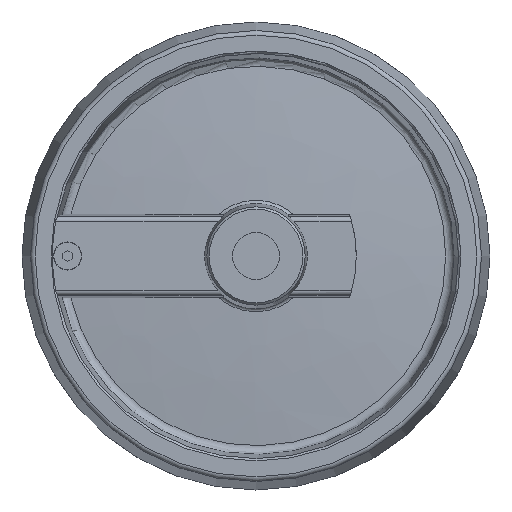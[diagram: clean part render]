
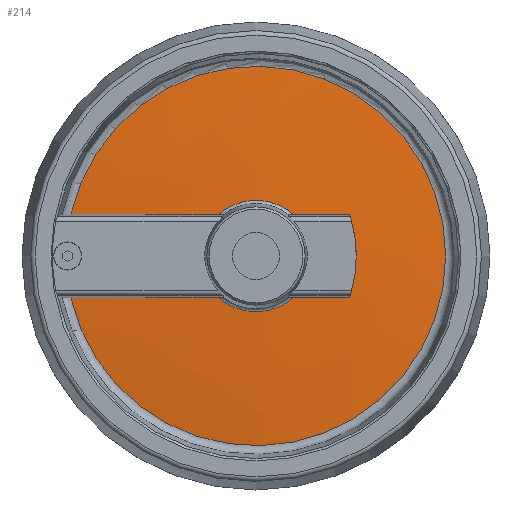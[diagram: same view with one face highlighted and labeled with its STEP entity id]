
A CAD part, left-side view. The second image highlights one B-rep face of the part: STEP entity #214.
In plain terms, the highlighted free-form (B-spline) face has degree [3, 3] with [4, 7] control points.
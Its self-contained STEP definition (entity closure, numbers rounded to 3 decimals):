
#214 = ADVANCED_FACE( '', ( #383 ), #384, .T. );
#383 = FACE_OUTER_BOUND( '', #701, .T. );
#384 = ( BOUNDED_SURFACE(  )B_SPLINE_SURFACE( 3, 3, ( ( #704, #705, #706, #707, #708, #709, #710 ), ( #711, #712, #713, #714, #715, #716, #717 ), ( #718, #719, #720, #721, #722, #723, #724 ), ( #725, #726, #727, #728, #729, #730, #731 ) ), .UNSPECIFIED., .F., .F., .F. )B_SPLINE_SURFACE_WITH_KNOTS( ( 4, 4 ), ( 4, 3, 4 ), ( 1.757, 7.667 ), ( -1.531, -1.502, -1.473 ), .UNSPECIFIED. )GEOMETRIC_REPRESENTATION_ITEM(  )RATIONAL_B_SPLINE_SURFACE( ( ( 1., 0.395, 0.395, 1., 0.395, 0.395, 1. ), ( 1., 0.395, 0.395, 1., 0.395, 0.395, 1. ), ( 1., 0.395, 0.395, 1., 0.395, 0.395, 1. ), ( 1., 0.395, 0.395, 1., 0.395, 0.395, 1. ) ) )REPRESENTATION_ITEM( '' )SURFACE(  ) );
#701 = EDGE_LOOP( '', ( #1295, #1296, #1297, #1298, #1299, #1300, #1301, #1302 ) );
#704 = CARTESIAN_POINT( '', ( 47.192, 79.651, 15.045 ) );
#705 = CARTESIAN_POINT( '', ( 47.192, 54.399, 148.733 ) );
#706 = CARTESIAN_POINT( '', ( 47.192, -81.06, 136.051 ) );
#707 = CARTESIAN_POINT( '', ( 47.192, -81.06, 0. ) );
#708 = CARTESIAN_POINT( '', ( 47.192, -81.06, -136.051 ) );
#709 = CARTESIAN_POINT( '', ( 47.192, 54.399, -148.733 ) );
#710 = CARTESIAN_POINT( '', ( 47.192, 79.651, -15.045 ) );
#711 = CARTESIAN_POINT( '', ( 45.331, 60.942, 11.511 ) );
#712 = CARTESIAN_POINT( '', ( 45.331, 41.621, 113.796 ) );
#713 = CARTESIAN_POINT( '', ( 45.331, -62.019, 104.093 ) );
#714 = CARTESIAN_POINT( '', ( 45.331, -62.019, 0. ) );
#715 = CARTESIAN_POINT( '', ( 45.331, -62.019, -104.093 ) );
#716 = CARTESIAN_POINT( '', ( 45.331, 41.621, -113.796 ) );
#717 = CARTESIAN_POINT( '', ( 45.331, 60.942, -11.511 ) );
#718 = CARTESIAN_POINT( '', ( 44.018, 42.187, 7.969 ) );
#719 = CARTESIAN_POINT( '', ( 44.018, 28.812, 78.776 ) );
#720 = CARTESIAN_POINT( '', ( 44.018, -42.933, 72.059 ) );
#721 = CARTESIAN_POINT( '', ( 44.018, -42.933, 0. ) );
#722 = CARTESIAN_POINT( '', ( 44.018, -42.933, -72.059 ) );
#723 = CARTESIAN_POINT( '', ( 44.018, 28.812, -78.776 ) );
#724 = CARTESIAN_POINT( '', ( 44.018, 42.187, -7.969 ) );
#725 = CARTESIAN_POINT( '', ( 43.253, 23.403, 4.421 ) );
#726 = CARTESIAN_POINT( '', ( 43.253, 15.984, 43.701 ) );
#727 = CARTESIAN_POINT( '', ( 43.253, -23.817, 39.975 ) );
#728 = CARTESIAN_POINT( '', ( 43.253, -23.817, 0. ) );
#729 = CARTESIAN_POINT( '', ( 43.253, -23.817, -39.975 ) );
#730 = CARTESIAN_POINT( '', ( 43.253, 15.984, -43.701 ) );
#731 = CARTESIAN_POINT( '', ( 43.253, 23.403, -4.421 ) );
#1295 = ORIENTED_EDGE( '', *, *, #1862, .F. );
#1296 = ORIENTED_EDGE( '', *, *, #1863, .T. );
#1297 = ORIENTED_EDGE( '', *, *, #1864, .F. );
#1298 = ORIENTED_EDGE( '', *, *, #1865, .F. );
#1299 = ORIENTED_EDGE( '', *, *, #1866, .F. );
#1300 = ORIENTED_EDGE( '', *, *, #1867, .T. );
#1301 = ORIENTED_EDGE( '', *, *, #1860, .F. );
#1302 = ORIENTED_EDGE( '', *, *, #1868, .F. );
#1860 = EDGE_CURVE( '', #2189, #2191, #2192, .T. );
#1862 = EDGE_CURVE( '', #2194, #2195, #2196, .T. );
#1863 = EDGE_CURVE( '', #2194, #2197, #2198, .T. );
#1864 = EDGE_CURVE( '', #2199, #2197, #2200, .T. );
#1865 = EDGE_CURVE( '', #2201, #2199, #2202, .T. );
#1866 = EDGE_CURVE( '', #2203, #2201, #2204, .T. );
#1867 = EDGE_CURVE( '', #2203, #2191, #2205, .T. );
#1868 = EDGE_CURVE( '', #2195, #2189, #2206, .T. );
#2189 = VERTEX_POINT( '', #2863 );
#2191 = VERTEX_POINT( '', #2880 );
#2192 = B_SPLINE_CURVE_WITH_KNOTS( '', 3, ( #2881, #2882, #2883, #2884, #2885, #2886, #2887, #2888 ), .UNSPECIFIED., .F., .F., ( 4, 2, 2, 4 ), ( 0.008, 0.04, 0.055, 0.071 ), .UNSPECIFIED. );
#2194 = VERTEX_POINT( '', #2901 );
#2195 = VERTEX_POINT( '', #2902 );
#2196 = B_SPLINE_CURVE_WITH_KNOTS( '', 3, ( #2903, #2904, #2905, #2906, #2907, #2908, #2909, #2910 ), .UNSPECIFIED., .F., .F., ( 4, 2, 2, 4 ), ( 0.063, 0.079, 0.095, 0.126 ), .UNSPECIFIED. );
#2197 = VERTEX_POINT( '', #2911 );
#2198 = CIRCLE( '', #2912, 23.817 );
#2199 = VERTEX_POINT( '', #2913 );
#2200 = B_SPLINE_CURVE_WITH_KNOTS( '', 3, ( #2914, #2915, #2916, #2917 ), .UNSPECIFIED., .F., .F., ( 4, 4 ), ( 0.007, 0.031 ), .UNSPECIFIED. );
#2201 = VERTEX_POINT( '', #2918 );
#2202 = B_SPLINE_CURVE_WITH_KNOTS( '', 3, ( #2919, #2920, #2921, #2922, #2923, #2924, #2925, #2926, #2927, #2928, #2929, #2930, #2931, #2932 ), .UNSPECIFIED., .F., .F., ( 4, 2, 2, 2, 2, 2, 4 ), ( 0., 0.009, 0.018, 0.02, 0.023, 0.027, 0.036 ), .UNSPECIFIED. );
#2203 = VERTEX_POINT( '', #2933 );
#2204 = B_SPLINE_CURVE_WITH_KNOTS( '', 3, ( #2934, #2935, #2936, #2937 ), .UNSPECIFIED., .F., .F., ( 4, 4 ), ( 0.103, 0.127 ), .UNSPECIFIED. );
#2205 = CIRCLE( '', #2938, 23.817 );
#2206 = CIRCLE( '', #2939, 81.06 );
#2863 = CARTESIAN_POINT( '', ( 47.192, 79.058, -17.901 ) );
#2880 = CARTESIAN_POINT( '', ( 43.253, 15.949, -17.688 ) );
#2881 = CARTESIAN_POINT( '', ( 47.192, 79.058, -17.901 ) );
#2882 = CARTESIAN_POINT( '', ( 46.19, 68.56, -17.847 ) );
#2883 = CARTESIAN_POINT( '', ( 45.356, 58.052, -17.802 ) );
#2884 = CARTESIAN_POINT( '', ( 44.364, 42.275, -17.748 ) );
#2885 = CARTESIAN_POINT( '', ( 44.076, 37.014, -17.733 ) );
#2886 = CARTESIAN_POINT( '', ( 43.592, 26.486, -17.707 ) );
#2887 = CARTESIAN_POINT( '', ( 43.394, 21.219, -17.696 ) );
#2888 = CARTESIAN_POINT( '', ( 43.253, 15.949, -17.688 ) );
#2901 = CARTESIAN_POINT( '', ( 43.253, 15.949, 17.688 ) );
#2902 = CARTESIAN_POINT( '', ( 47.192, 79.058, 17.901 ) );
#2903 = CARTESIAN_POINT( '', ( 43.253, 15.949, 17.688 ) );
#2904 = CARTESIAN_POINT( '', ( 43.394, 21.219, 17.696 ) );
#2905 = CARTESIAN_POINT( '', ( 43.592, 26.486, 17.707 ) );
#2906 = CARTESIAN_POINT( '', ( 44.076, 37.014, 17.733 ) );
#2907 = CARTESIAN_POINT( '', ( 44.364, 42.275, 17.748 ) );
#2908 = CARTESIAN_POINT( '', ( 45.356, 58.052, 17.802 ) );
#2909 = CARTESIAN_POINT( '', ( 46.19, 68.56, 17.847 ) );
#2910 = CARTESIAN_POINT( '', ( 47.192, 79.058, 17.901 ) );
#2911 = CARTESIAN_POINT( '', ( 43.253, -15.949, 17.688 ) );
#2912 = AXIS2_PLACEMENT_3D( '', #3468, #3469, #3470 );
#2913 = CARTESIAN_POINT( '', ( 44.248, -39.957, 17.742 ) );
#2914 = CARTESIAN_POINT( '', ( 44.248, -39.957, 17.742 ) );
#2915 = CARTESIAN_POINT( '', ( 43.809, -31.958, 17.718 ) );
#2916 = CARTESIAN_POINT( '', ( 43.468, -23.956, 17.7 ) );
#2917 = CARTESIAN_POINT( '', ( 43.253, -15.949, 17.688 ) );
#2918 = CARTESIAN_POINT( '', ( 44.248, -39.957, -17.742 ) );
#2919 = CARTESIAN_POINT( '', ( 44.248, -39.957, -17.742 ) );
#2920 = CARTESIAN_POINT( '', ( 44.231, -40.92, -14.864 ) );
#2921 = CARTESIAN_POINT( '', ( 44.218, -41.638, -11.948 ) );
#2922 = CARTESIAN_POINT( '', ( 44.201, -42.601, -6.039 ) );
#2923 = CARTESIAN_POINT( '', ( 44.196, -42.846, -3.047 ) );
#2924 = CARTESIAN_POINT( '', ( 44.196, -42.848, 0.742 ) );
#2925 = CARTESIAN_POINT( '', ( 44.197, -42.832, 1.501 ) );
#2926 = CARTESIAN_POINT( '', ( 44.198, -42.771, 3.012 ) );
#2927 = CARTESIAN_POINT( '', ( 44.199, -42.725, 3.765 ) );
#2928 = CARTESIAN_POINT( '', ( 44.202, -42.543, 6.015 ) );
#2929 = CARTESIAN_POINT( '', ( 44.205, -42.361, 7.505 ) );
#2930 = CARTESIAN_POINT( '', ( 44.218, -41.638, 11.945 ) );
#2931 = CARTESIAN_POINT( '', ( 44.231, -40.92, 14.864 ) );
#2932 = CARTESIAN_POINT( '', ( 44.248, -39.957, 17.742 ) );
#2933 = CARTESIAN_POINT( '', ( 43.253, -15.949, -17.688 ) );
#2934 = CARTESIAN_POINT( '', ( 43.253, -15.949, -17.688 ) );
#2935 = CARTESIAN_POINT( '', ( 43.468, -23.956, -17.7 ) );
#2936 = CARTESIAN_POINT( '', ( 43.809, -31.958, -17.718 ) );
#2937 = CARTESIAN_POINT( '', ( 44.248, -39.957, -17.742 ) );
#2938 = AXIS2_PLACEMENT_3D( '', #3471, #3472, #3473 );
#2939 = AXIS2_PLACEMENT_3D( '', #3474, #3475, #3476 );
#3468 = CARTESIAN_POINT( '', ( 43.253, 0., 0. ) );
#3469 = DIRECTION( '', ( 1., 0., 0. ) );
#3470 = DIRECTION( '', ( 0., 0., -1. ) );
#3471 = CARTESIAN_POINT( '', ( 43.253, 0., 0. ) );
#3472 = DIRECTION( '', ( 1., 0., 0. ) );
#3473 = DIRECTION( '', ( 0., 0., -1. ) );
#3474 = CARTESIAN_POINT( '', ( 47.192, 0., 0. ) );
#3475 = DIRECTION( '', ( 1., 0., 0. ) );
#3476 = DIRECTION( '', ( 0., 0., -1. ) );
